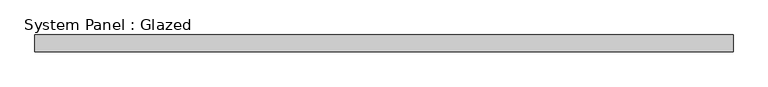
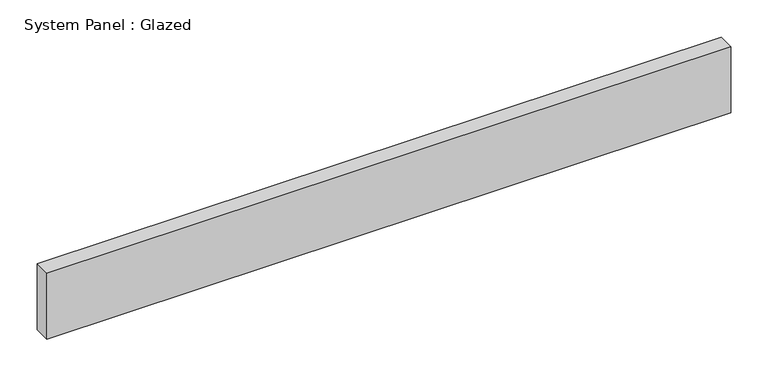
"""IFC4 building model written with IfcOpenShell, lengths in millimetres: plate geometry, System Panel : Glazed."""

from ifc_helpers import new_model, si_unit, origin, origin_with_axes, place, context, project, spatial, polyline, outline, extrude, source, transform, mapped, element, save


def system_panel_glazed_a26f2a3d(model_context):
    return source(origin(), model_context, "Body", "SweptSolid", [
        extrude(outline(polyline([(528.4107143, 19.05), (-528.4107143, 19.05), (-528.4107143, 44.45), (528.4107143, 44.45), (528.4107143, 19.05)])), origin_with_axes(), (0.0, 0.0, 1.0), 107.8104781),
    ])


if __name__ == "__main__":
    model = new_model("IFC4")
    model_context = context("Model", 3, world=origin())
    ifc_project = project(units=[si_unit("LENGTHUNIT", "METRE", prefix="MILLI")], contexts=[model_context])
    site = spatial("IfcSite", under=ifc_project)
    building = spatial("IfcBuilding", under=site)
    placement = place(None, origin())
    system_panel_glazed_shape = system_panel_glazed_a26f2a3d(model_context)
    element("IfcPlate", 1, ObjectType="System Panel : Glazed", at=placement, inside=building, context=model_context, shape_type="MappedRepresentation", body=[
        mapped(system_panel_glazed_shape, transform((0.0, 0.0, 0.0), x_axis=(1.0, 0.0, 0.0), y_axis=(0.0, 1.0, 0.0), z_axis=(0.0, 0.0, 1.0))),
    ])
    save(model, "model.ifc")
